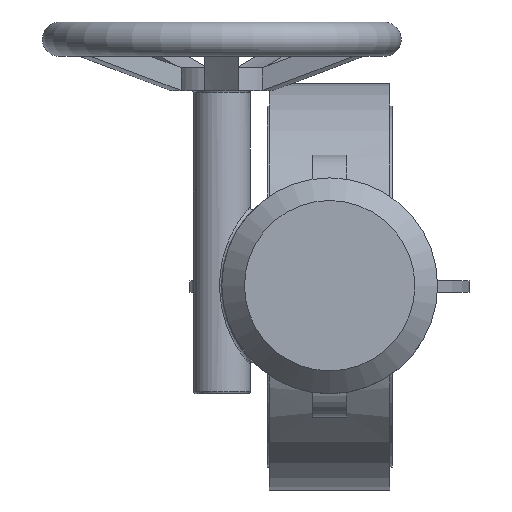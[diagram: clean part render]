
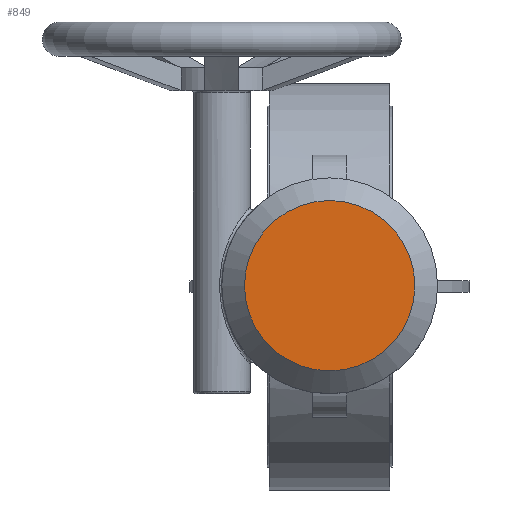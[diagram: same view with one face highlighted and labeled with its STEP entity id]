
A CAD part, top view. The second image highlights one B-rep face of the part: STEP entity #849.
In plain terms, the highlighted planar face has unit normal (0, 0, 1).
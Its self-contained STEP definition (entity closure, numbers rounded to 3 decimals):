
#849=ADVANCED_FACE('',(#2633),#2635,.T.);
#2633=FACE_BOUND('',#2634,.T.);
#2634=EDGE_LOOP('',(#3377));
#2635=PLANE('',#2636);
#2636=AXIS2_PLACEMENT_3D('',#2637,#2638,#2639);
#2637=CARTESIAN_POINT('',(0.,0.,237.));
#2638=DIRECTION('',(0.,0.,1.));
#2639=DIRECTION('',(-1.,0.,0.));
#3377=ORIENTED_EDGE('',*,*,#3767,.T.);
#3767=EDGE_CURVE('',#4193,#4193,#4194,.T.);
#4193=VERTEX_POINT('',#5985);
#4194=CIRCLE('',#5986,37.5);
#5985=CARTESIAN_POINT('',(-37.5,0.,237.));
#5986=AXIS2_PLACEMENT_3D('',#5987,#5988,#5989);
#5987=CARTESIAN_POINT('',(0.,0.,237.));
#5988=DIRECTION('',(0.,0.,1.));
#5989=DIRECTION('',(-1.,0.,0.));
